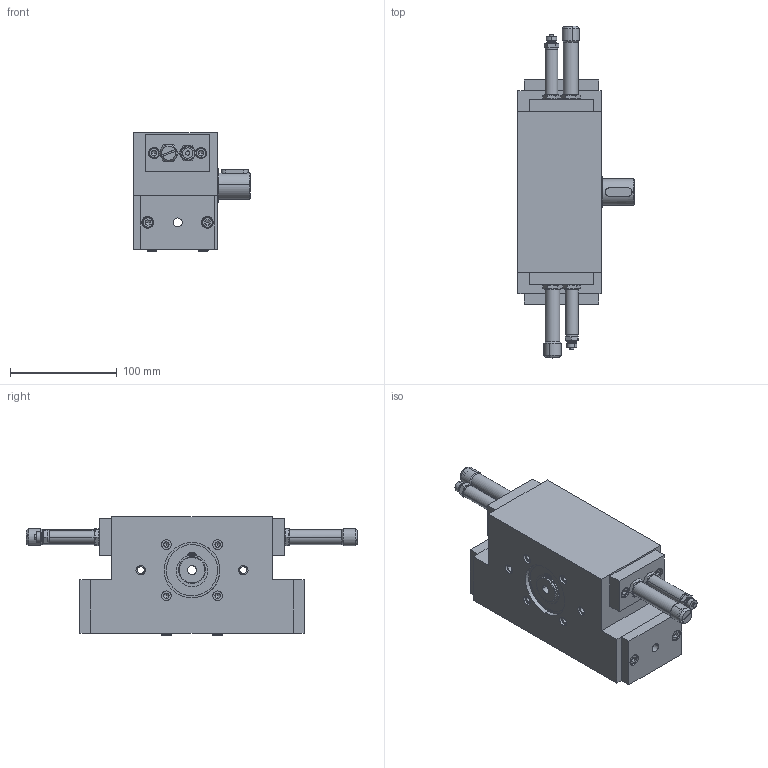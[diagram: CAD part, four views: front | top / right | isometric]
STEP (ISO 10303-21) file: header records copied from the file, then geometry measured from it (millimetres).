
FILE_DESCRIPTION((''),'2;1');
FILE_NAME('V:\CAD\Inventor-Stp\Drehantriebe\DA 40\2000042\2000042.stp','2006-03-15T12:11:26',('is'),(''),'Autodesk Inventor 8','Autodesk Inventor 8','');
FILE_SCHEMA(('AUTOMOTIVE_DESIGN { 1 0 10303 214 1 1 1 1 }'));
Length unit declared in the file: millimetre
Products named in the file (3): 2000042; 2000042-a; 2000042-b
Assembly tree (2 placements, depth 2):
  2000042
    2000042-a
    2000042-b
Bounding box: 109 x 311 x 110.9 mm (x, y, z)
Volume: 1173186.7 mm3; surface area: 200054.6 mm2
Topology: 2 solids, 42 shells, 2764 faces, 7705 edges, 5055 vertices
Faces by surface type: plane 2020, bspline 286, cylinder 246, cone 188, torus 24
Entity records: 92499 total; most frequent: CARTESIAN_POINT 22090, ORIENTED_EDGE 15298, DIRECTION 13646, EDGE_CURVE 7649, VECTOR 6214, LINE 6214, VERTEX_POINT 5055, AXIS2_PLACEMENT_3D 3716
